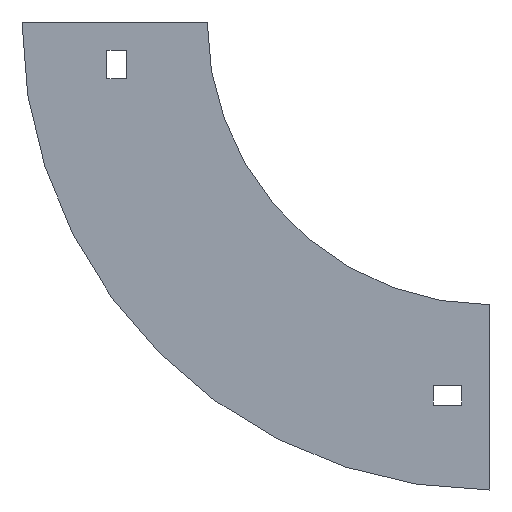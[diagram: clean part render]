
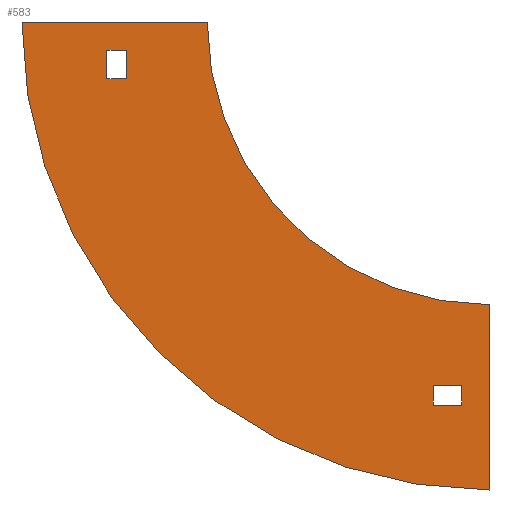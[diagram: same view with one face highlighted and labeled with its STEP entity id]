
A CAD part, left-side view. The second image highlights one B-rep face of the part: STEP entity #583.
In plain terms, the highlighted planar face has unit normal (-1, 0, 0).
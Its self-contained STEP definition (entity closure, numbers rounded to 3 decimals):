
#17 = VERTEX_POINT ( 'NONE', #752 ) ;
#18 = EDGE_CURVE ( 'NONE', #492, #782, #317, .T. ) ;
#22 = DIRECTION ( 'NONE',  ( 0., 0., 1. ) ) ;
#30 = VECTOR ( 'NONE', #783, 1000. ) ;
#38 = CARTESIAN_POINT ( 'NONE',  ( -102., -100., -100. ) ) ;
#96 = CARTESIAN_POINT ( 'NONE',  ( -102., 28.5, -10. ) ) ;
#99 = ORIENTED_EDGE ( 'NONE', *, *, #838, .F. ) ;
#115 = LINE ( 'NONE', #38, #858 ) ;
#120 = DIRECTION ( 'NONE',  ( 0., 0., 1. ) ) ;
#131 = DIRECTION ( 'NONE',  ( 0., -1., 0. ) ) ;
#141 = VECTOR ( 'NONE', #795, 1000. ) ;
#147 = ORIENTED_EDGE ( 'NONE', *, *, #522, .F. ) ;
#154 = EDGE_CURVE ( 'NONE', #17, #617, #189, .T. ) ;
#155 = VERTEX_POINT ( 'NONE', #1045 ) ;
#162 = AXIS2_PLACEMENT_3D ( 'NONE', #994, #467, #22 ) ;
#167 = VERTEX_POINT ( 'NONE', #509 ) ;
#168 = VECTOR ( 'NONE', #433, 1000. ) ;
#183 = EDGE_LOOP ( 'NONE', ( #540, #743, #895, #327 ) ) ;
#186 = VECTOR ( 'NONE', #131, 1000. ) ;
#189 = LINE ( 'NONE', #451, #1007 ) ;
#221 = DIRECTION ( 'NONE',  ( 0., 0., -1. ) ) ;
#240 = VERTEX_POINT ( 'NONE', #257 ) ;
#241 = CARTESIAN_POINT ( 'NONE',  ( -102., -80., -128.5 ) ) ;
#252 = VERTEX_POINT ( 'NONE', #1008 ) ;
#257 = CARTESIAN_POINT ( 'NONE',  ( -102., 28.5, -20. ) ) ;
#259 = AXIS2_PLACEMENT_3D ( 'NONE', #531, #1054, #452 ) ;
#268 = VECTOR ( 'NONE', #1009, 1000. ) ;
#269 = EDGE_LOOP ( 'NONE', ( #147, #819, #496, #418 ) ) ;
#279 = CARTESIAN_POINT ( 'NONE',  ( -102., -90., -135.5 ) ) ;
#282 = CARTESIAN_POINT ( 'NONE',  ( -102., -90., -135.5 ) ) ;
#295 = PLANE ( 'NONE',  #419 ) ;
#306 = LINE ( 'NONE', #919, #186 ) ;
#317 = LINE ( 'NONE', #1104, #268 ) ;
#319 = ORIENTED_EDGE ( 'NONE', *, *, #797, .F. ) ;
#327 = ORIENTED_EDGE ( 'NONE', *, *, #18, .T. ) ;
#371 = LINE ( 'NONE', #96, #141 ) ;
#382 = CIRCLE ( 'NONE', #162, 165.5 ) ;
#418 = ORIENTED_EDGE ( 'NONE', *, *, #888, .F. ) ;
#419 = AXIS2_PLACEMENT_3D ( 'NONE', #731, #995, #1095 ) ;
#433 = DIRECTION ( 'NONE',  ( 0., 1., 0. ) ) ;
#440 = DIRECTION ( 'NONE',  ( 0., 1., 0. ) ) ;
#443 = FACE_BOUND ( 'NONE', #183, .T. ) ;
#451 = CARTESIAN_POINT ( 'NONE',  ( -102., -90., -128.5 ) ) ;
#452 = DIRECTION ( 'NONE',  ( 0., 0., 1. ) ) ;
#463 = CARTESIAN_POINT ( 'NONE',  ( -102., 65.5, 0. ) ) ;
#464 = CARTESIAN_POINT ( 'NONE',  ( -102., -100., -100. ) ) ;
#467 = DIRECTION ( 'NONE',  ( 1., 0., 0. ) ) ;
#480 = LINE ( 'NONE', #671, #1005 ) ;
#492 = VERTEX_POINT ( 'NONE', #864 ) ;
#494 = LINE ( 'NONE', #971, #30 ) ;
#496 = ORIENTED_EDGE ( 'NONE', *, *, #1094, .F. ) ;
#509 = CARTESIAN_POINT ( 'NONE',  ( -102., -80., -135.5 ) ) ;
#512 = LINE ( 'NONE', #664, #168 ) ;
#517 = EDGE_CURVE ( 'NONE', #240, #492, #512, .T. ) ;
#522 = EDGE_CURVE ( 'NONE', #871, #1020, #1026, .T. ) ;
#527 = EDGE_CURVE ( 'NONE', #252, #240, #371, .T. ) ;
#530 = FACE_BOUND ( 'NONE', #775, .T. ) ;
#531 = CARTESIAN_POINT ( 'NONE',  ( -102., -100., 0. ) ) ;
#540 = ORIENTED_EDGE ( 'NONE', *, *, #576, .T. ) ;
#548 = DIRECTION ( 'NONE',  ( 0., -1., 0. ) ) ;
#557 = DIRECTION ( 'NONE',  ( 0., 0., -1. ) ) ;
#576 = EDGE_CURVE ( 'NONE', #782, #252, #494, .T. ) ;
#583 = ADVANCED_FACE ( 'NONE', ( #443, #705, #530 ), #295, .T. ) ;
#617 = VERTEX_POINT ( 'NONE', #241 ) ;
#644 = CARTESIAN_POINT ( 'NONE',  ( -102., 0., 0. ) ) ;
#664 = CARTESIAN_POINT ( 'NONE',  ( -102., 35.5, -20. ) ) ;
#666 = ORIENTED_EDGE ( 'NONE', *, *, #154, .F. ) ;
#671 = CARTESIAN_POINT ( 'NONE',  ( -102., -80., -135.5 ) ) ;
#705 = FACE_OUTER_BOUND ( 'NONE', #269, .T. ) ;
#731 = CARTESIAN_POINT ( 'NONE',  ( -102., -100., 0. ) ) ;
#743 = ORIENTED_EDGE ( 'NONE', *, *, #527, .T. ) ;
#746 = EDGE_CURVE ( 'NONE', #1085, #871, #306, .T. ) ;
#751 = CARTESIAN_POINT ( 'NONE',  ( -102., 35.5, -10. ) ) ;
#752 = CARTESIAN_POINT ( 'NONE',  ( -102., -90., -128.5 ) ) ;
#775 = EDGE_LOOP ( 'NONE', ( #666, #1032, #99, #319 ) ) ;
#782 = VERTEX_POINT ( 'NONE', #751 ) ;
#783 = DIRECTION ( 'NONE',  ( 0., -1., 0. ) ) ;
#795 = DIRECTION ( 'NONE',  ( 0., 0., -1. ) ) ;
#797 = EDGE_CURVE ( 'NONE', #617, #167, #480, .T. ) ;
#802 = LINE ( 'NONE', #279, #880 ) ;
#819 = ORIENTED_EDGE ( 'NONE', *, *, #746, .F. ) ;
#822 = VECTOR ( 'NONE', #120, 1000. ) ;
#838 = EDGE_CURVE ( 'NONE', #167, #1057, #802, .T. ) ;
#858 = VECTOR ( 'NONE', #221, 1000. ) ;
#864 = CARTESIAN_POINT ( 'NONE',  ( -102., 35.5, -20. ) ) ;
#871 = VERTEX_POINT ( 'NONE', #644 ) ;
#880 = VECTOR ( 'NONE', #548, 1000. ) ;
#888 = EDGE_CURVE ( 'NONE', #1020, #155, #115, .T. ) ;
#895 = ORIENTED_EDGE ( 'NONE', *, *, #517, .T. ) ;
#901 = EDGE_CURVE ( 'NONE', #1057, #17, #990, .T. ) ;
#905 = CARTESIAN_POINT ( 'NONE',  ( -102., -90., -135.5 ) ) ;
#919 = CARTESIAN_POINT ( 'NONE',  ( -102., 65.5, 0. ) ) ;
#971 = CARTESIAN_POINT ( 'NONE',  ( -102., 35.5, -10. ) ) ;
#990 = LINE ( 'NONE', #905, #822 ) ;
#994 = CARTESIAN_POINT ( 'NONE',  ( -102., -100., 0. ) ) ;
#995 = DIRECTION ( 'NONE',  ( -1., 0., 0. ) ) ;
#1005 = VECTOR ( 'NONE', #557, 1000. ) ;
#1007 = VECTOR ( 'NONE', #440, 1000. ) ;
#1008 = CARTESIAN_POINT ( 'NONE',  ( -102., 28.5, -10. ) ) ;
#1009 = DIRECTION ( 'NONE',  ( 0., 0., 1. ) ) ;
#1020 = VERTEX_POINT ( 'NONE', #464 ) ;
#1026 = CIRCLE ( 'NONE', #259, 100. ) ;
#1032 = ORIENTED_EDGE ( 'NONE', *, *, #901, .F. ) ;
#1045 = CARTESIAN_POINT ( 'NONE',  ( -102., -100., -165.5 ) ) ;
#1054 = DIRECTION ( 'NONE',  ( -1., 0., 0. ) ) ;
#1057 = VERTEX_POINT ( 'NONE', #282 ) ;
#1085 = VERTEX_POINT ( 'NONE', #463 ) ;
#1094 = EDGE_CURVE ( 'NONE', #155, #1085, #382, .T. ) ;
#1095 = DIRECTION ( 'NONE',  ( 0., 0., 1. ) ) ;
#1104 = CARTESIAN_POINT ( 'NONE',  ( -102., 35.5, -10. ) ) ;
